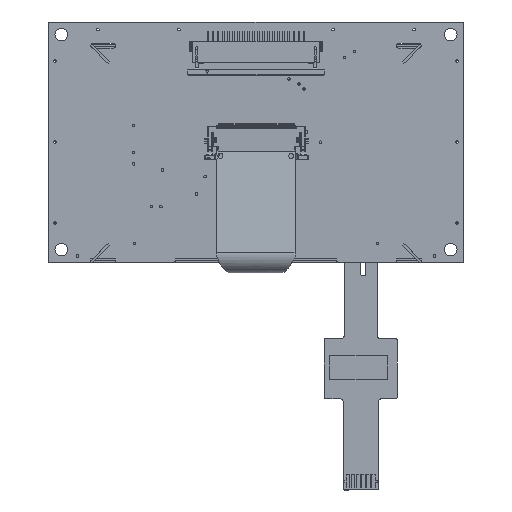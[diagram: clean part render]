
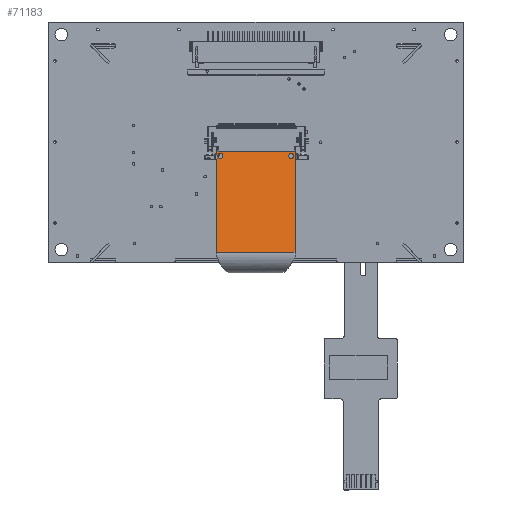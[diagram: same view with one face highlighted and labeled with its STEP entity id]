
A CAD part, top view. The second image highlights one B-rep face of the part: STEP entity #71183.
In plain terms, the highlighted planar face has unit normal (0, 0.165, 0.986).
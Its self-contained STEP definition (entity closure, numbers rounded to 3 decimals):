
#2119 = VECTOR ( 'NONE', #35574, 1000. ) ;
#3808 = ORIENTED_EDGE ( 'NONE', *, *, #11169, .F. ) ;
#7582 = CARTESIAN_POINT ( 'NONE',  ( 26.102, 46.042, 58.939 ) ) ;
#8281 = CARTESIAN_POINT ( 'NONE',  ( 26.102, 39.369, 60.056 ) ) ;
#8568 = VERTEX_POINT ( 'NONE', #26220 ) ;
#11169 = EDGE_CURVE ( 'NONE', #98413, #60798, #14317, .T. ) ;
#13136 = ORIENTED_EDGE ( 'NONE', *, *, #77991, .T. ) ;
#13559 = CARTESIAN_POINT ( 'NONE',  ( 40.352, 45.056, 59.104 ) ) ;
#13638 = CARTESIAN_POINT ( 'NONE',  ( 41.602, 26.021, 62.289 ) ) ;
#14317 = CIRCLE ( 'NONE', #47105, 0.5 ) ;
#14975 = CARTESIAN_POINT ( 'NONE',  ( 41.602, 46.042, 58.939 ) ) ;
#16266 = EDGE_LOOP ( 'NONE', ( #65428, #82334 ) ) ;
#17276 = CARTESIAN_POINT ( 'NONE',  ( 26.102, 46.042, 58.939 ) ) ;
#18481 = CARTESIAN_POINT ( 'NONE',  ( 26.102, 46.042, 58.939 ) ) ;
#19735 = DIRECTION ( 'NONE',  ( -1., 0., 0. ) ) ;
#20031 = CARTESIAN_POINT ( 'NONE',  ( 41.602, 46.042, 58.939 ) ) ;
#20353 = CARTESIAN_POINT ( 'NONE',  ( 27.352, 45.056, 59.104 ) ) ;
#23852 = CARTESIAN_POINT ( 'NONE',  ( 40.852, 45.056, 59.104 ) ) ;
#23913 = EDGE_CURVE ( 'NONE', #32208, #33383, #49668, .T. ) ;
#24026 = CARTESIAN_POINT ( 'NONE',  ( 26.852, 45.056, 59.104 ) ) ;
#25807 = EDGE_CURVE ( 'NONE', #49710, #33383, #127183, .T. ) ;
#26220 = CARTESIAN_POINT ( 'NONE',  ( 26.352, 45.056, 59.104 ) ) ;
#27644 = CIRCLE ( 'NONE', #104122, 0.5 ) ;
#30859 = AXIS2_PLACEMENT_3D ( 'NONE', #23852, #51953, #135378 ) ;
#30920 = EDGE_CURVE ( 'NONE', #35380, #8568, #27644, .T. ) ;
#31477 = CARTESIAN_POINT ( 'NONE',  ( 26.102, 26.021, 62.289 ) ) ;
#32031 = EDGE_CURVE ( 'NONE', #8568, #35380, #127856, .T. ) ;
#32208 = VERTEX_POINT ( 'NONE', #18481 ) ;
#33383 = VERTEX_POINT ( 'NONE', #20031 ) ;
#34861 = VERTEX_POINT ( 'NONE', #128703 ) ;
#35380 = VERTEX_POINT ( 'NONE', #20353 ) ;
#35574 = DIRECTION ( 'NONE',  ( 1., 0., 0. ) ) ;
#35636 = DIRECTION ( 'NONE',  ( 0., 0.165, 0.986 ) ) ;
#39011 = DIRECTION ( 'NONE',  ( 0., 0.165, 0.986 ) ) ;
#40745 = DIRECTION ( 'NONE',  ( 0., 0.986, -0.165 ) ) ;
#45075 = CARTESIAN_POINT ( 'NONE',  ( 41.602, 39.369, 60.056 ) ) ;
#47105 = AXIS2_PLACEMENT_3D ( 'NONE', #101642, #60628, #40745 ) ;
#49668 = B_SPLINE_CURVE_WITH_KNOTS ( 'NONE', 3,
 ( #17276, #50086, #91791, #59005 ),
 .UNSPECIFIED., .F., .F.,
 ( 4, 4 ),
 ( 0., 1. ),
 .UNSPECIFIED. ) ;
#49710 = VERTEX_POINT ( 'NONE', #122892 ) ;
#50086 = CARTESIAN_POINT ( 'NONE',  ( 31.269, 46.042, 58.939 ) ) ;
#51341 = CARTESIAN_POINT ( 'NONE',  ( 26.102, 32.695, 61.172 ) ) ;
#51953 = DIRECTION ( 'NONE',  ( 0., 0.165, 0.986 ) ) ;
#57460 = LINE ( 'NONE', #87553, #2119 ) ;
#58110 = ORIENTED_EDGE ( 'NONE', *, *, #23913, .F. ) ;
#59005 = CARTESIAN_POINT ( 'NONE',  ( 41.602, 46.042, 58.939 ) ) ;
#60095 = CARTESIAN_POINT ( 'NONE',  ( 28.852, 22.372, 62.9 ) ) ;
#60628 = DIRECTION ( 'NONE',  ( 0., 0.165, 0.986 ) ) ;
#60798 = VERTEX_POINT ( 'NONE', #13559 ) ;
#62399 = ORIENTED_EDGE ( 'NONE', *, *, #62961, .T. ) ;
#62961 = EDGE_CURVE ( 'NONE', #34861, #49710, #57460, .T. ) ;
#65428 = ORIENTED_EDGE ( 'NONE', *, *, #32031, .F. ) ;
#70353 = FACE_BOUND ( 'NONE', #16266, .T. ) ;
#71183 = ADVANCED_FACE ( 'NONE', ( #114748, #70353, #112074 ), #91545, .T. ) ;
#77991 = EDGE_CURVE ( 'NONE', #32208, #34861, #102907, .T. ) ;
#78430 = ORIENTED_EDGE ( 'NONE', *, *, #87056, .F. ) ;
#79439 = CARTESIAN_POINT ( 'NONE',  ( 41.352, 45.056, 59.104 ) ) ;
#82334 = ORIENTED_EDGE ( 'NONE', *, *, #30920, .F. ) ;
#82626 = DIRECTION ( 'NONE',  ( 0., 0.165, 0.986 ) ) ;
#83297 = CIRCLE ( 'NONE', #30859, 0.5 ) ;
#86789 = CARTESIAN_POINT ( 'NONE',  ( 41.602, 32.695, 61.172 ) ) ;
#86936 = DIRECTION ( 'NONE',  ( 0., 0.986, -0.165 ) ) ;
#87056 = EDGE_CURVE ( 'NONE', #60798, #98413, #83297, .T. ) ;
#87553 = CARTESIAN_POINT ( 'NONE',  ( 28.852, 26.021, 62.289 ) ) ;
#90654 = AXIS2_PLACEMENT_3D ( 'NONE', #24026, #35636, #86936 ) ;
#91545 = PLANE ( 'NONE',  #125263 ) ;
#91791 = CARTESIAN_POINT ( 'NONE',  ( 36.435, 46.042, 58.939 ) ) ;
#96403 = DIRECTION ( 'NONE',  ( 0., 0.986, -0.165 ) ) ;
#98413 = VERTEX_POINT ( 'NONE', #79439 ) ;
#101261 = CARTESIAN_POINT ( 'NONE',  ( 26.852, 45.056, 59.104 ) ) ;
#101642 = CARTESIAN_POINT ( 'NONE',  ( 40.852, 45.056, 59.104 ) ) ;
#102907 = B_SPLINE_CURVE_WITH_KNOTS ( 'NONE', 3,
 ( #7582, #8281, #51341, #31477 ),
 .UNSPECIFIED., .F., .F.,
 ( 4, 4 ),
 ( 0., 1. ),
 .UNSPECIFIED. ) ;
#104122 = AXIS2_PLACEMENT_3D ( 'NONE', #101261, #39011, #96403 ) ;
#108809 = EDGE_LOOP ( 'NONE', ( #78430, #3808 ) ) ;
#111054 = ORIENTED_EDGE ( 'NONE', *, *, #25807, .T. ) ;
#112074 = FACE_BOUND ( 'NONE', #108809, .T. ) ;
#114748 = FACE_OUTER_BOUND ( 'NONE', #121705, .T. ) ;
#121705 = EDGE_LOOP ( 'NONE', ( #58110, #13136, #62399, #111054 ) ) ;
#122892 = CARTESIAN_POINT ( 'NONE',  ( 41.602, 26.021, 62.289 ) ) ;
#125263 = AXIS2_PLACEMENT_3D ( 'NONE', #60095, #82626, #19735 ) ;
#127183 = B_SPLINE_CURVE_WITH_KNOTS ( 'NONE', 3,
 ( #13638, #86789, #45075, #14975 ),
 .UNSPECIFIED., .F., .F.,
 ( 4, 4 ),
 ( 0., 1. ),
 .UNSPECIFIED. ) ;
#127856 = CIRCLE ( 'NONE', #90654, 0.5 ) ;
#128703 = CARTESIAN_POINT ( 'NONE',  ( 26.102, 26.021, 62.289 ) ) ;
#135378 = DIRECTION ( 'NONE',  ( 0., 0.986, -0.165 ) ) ;
